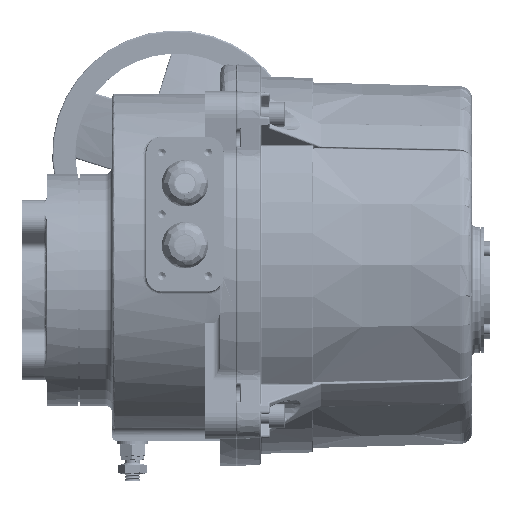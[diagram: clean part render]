
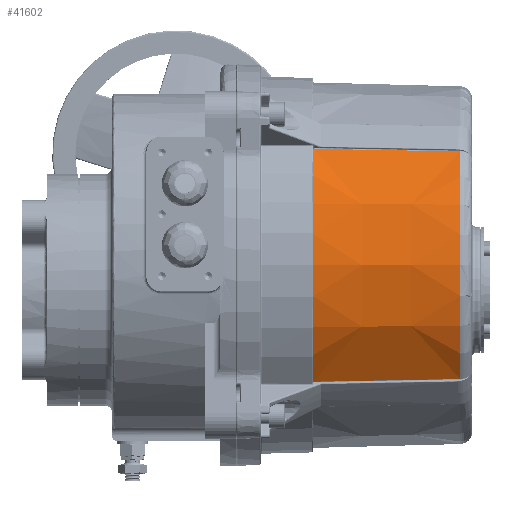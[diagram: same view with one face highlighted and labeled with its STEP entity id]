
A CAD part, left-side view. The second image highlights one B-rep face of the part: STEP entity #41602.
In plain terms, the highlighted conical face has half-angle 1.5 degrees and reference radius 115.6 mm.
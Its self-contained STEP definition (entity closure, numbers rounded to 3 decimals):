
#3648 = CARTESIAN_POINT ( 'NONE',  ( -90.974, -92.761, -75.197 ) ) ;
#5270 = CARTESIAN_POINT ( 'NONE',  ( -91.154, -102.415, 75.377 ) ) ;
#5914 = ORIENTED_EDGE ( 'NONE', *, *, #90754, .T. ) ;
#7390 = CARTESIAN_POINT ( 'NONE',  ( -91.067, -97.75, 75.29 ) ) ;
#10781 = CARTESIAN_POINT ( 'NONE',  ( -91.16, -102.748, -75.383 ) ) ;
#12110 = DIRECTION ( 'NONE',  ( 0., -1., 0. ) ) ;
#13548 = EDGE_CURVE ( 'NONE', #151352, #199338, #109644, .T. ) ;
#17894 = AXIS2_PLACEMENT_3D ( 'NONE', #178828, #97377, #161730 ) ;
#20110 = CARTESIAN_POINT ( 'NONE',  ( -90.577, -71.435, -74.801 ) ) ;
#21516 = CARTESIAN_POINT ( 'NONE',  ( -89.399, -8.124, -73.623 ) ) ;
#21846 = DIRECTION ( 'NONE',  ( 0., -1., 0. ) ) ;
#22209 = CARTESIAN_POINT ( 'NONE',  ( -89.585, -18.12, -73.809 ) ) ;
#23711 = FACE_OUTER_BOUND ( 'NONE', #50509, .T. ) ;
#23809 = CARTESIAN_POINT ( 'NONE',  ( -90.868, -87.087, 75.092 ) ) ;
#28534 = DIRECTION ( 'NONE',  ( 0., 0., 1. ) ) ;
#30906 = B_SPLINE_CURVE_WITH_KNOTS ( 'NONE', 3,
 ( #87131, #21516, #52177, #119967, #135740, #152188, #35805, #22209, #101446, #54945, #198644, #20110, #3648, #167179, #36511, #69270 ),
 .UNSPECIFIED., .F., .F.,
 ( 4, 3, 3, 3, 3, 4 ),
 ( 0., 0.001, 0.005, 0.021, 0.085, 0.095 ),
 .UNSPECIFIED. ) ;
#35805 = CARTESIAN_POINT ( 'NONE',  ( -89.486, -12.789, -73.71 ) ) ;
#36511 = CARTESIAN_POINT ( 'NONE',  ( -91.098, -99.419, -75.321 ) ) ;
#38657 = CARTESIAN_POINT ( 'NONE',  ( -91.586, -103., -74.875 ) ) ;
#38815 = CARTESIAN_POINT ( 'NONE',  ( -91.141, -101.749, 75.364 ) ) ;
#40218 = CARTESIAN_POINT ( 'NONE',  ( -89.975, -39.104, 74.2 ) ) ;
#40935 = VERTEX_POINT ( 'NONE', #106488 ) ;
#41602 = ADVANCED_FACE ( 'NONE', ( #23711 ), #49280, .T. ) ;
#47880 = EDGE_CURVE ( 'NONE', #88664, #208327, #116522, .T. ) ;
#49280 = CONICAL_SURFACE ( 'NONE', #169742, 115.6, 0.026 ) ;
#50509 = EDGE_LOOP ( 'NONE', ( #55286, #191505, #72062, #5914, #127297, #109183 ) ) ;
#52177 = CARTESIAN_POINT ( 'NONE',  ( -89.405, -8.457, -73.63 ) ) ;
#53440 = CARTESIAN_POINT ( 'NONE',  ( -91.287, -102.892, 75.235 ) ) ;
#54945 = CARTESIAN_POINT ( 'NONE',  ( -89.783, -28.783, -74.008 ) ) ;
#55286 = ORIENTED_EDGE ( 'NONE', *, *, #131117, .T. ) ;
#59646 = AXIS2_PLACEMENT_3D ( 'NONE', #103887, #21846, #153237 ) ;
#69270 = CARTESIAN_POINT ( 'NONE',  ( -91.16, -102.748, -75.383 ) ) ;
#70388 = EDGE_CURVE ( 'NONE', #40935, #88664, #150628, .T. ) ;
#70894 = CARTESIAN_POINT ( 'NONE',  ( -91.16, -102.748, 75.383 ) ) ;
#72062 = ORIENTED_EDGE ( 'NONE', *, *, #47880, .T. ) ;
#72313 = CARTESIAN_POINT ( 'NONE',  ( -91.116, -100.416, 75.339 ) ) ;
#73016 = CARTESIAN_POINT ( 'NONE',  ( -89.393, -7.791, 73.617 ) ) ;
#87004 = CARTESIAN_POINT ( 'NONE',  ( -91.433, -102.978, 75.061 ) ) ;
#87131 = CARTESIAN_POINT ( 'NONE',  ( -89.393, -7.791, -73.617 ) ) ;
#88397 = CARTESIAN_POINT ( 'NONE',  ( -91.16, -102.748, 75.383 ) ) ;
#88664 = VERTEX_POINT ( 'NONE', #144680 ) ;
#90754 = EDGE_CURVE ( 'NONE', #208327, #151352, #30906, .T. ) ;
#97377 = DIRECTION ( 'NONE',  ( 0., 1., 0. ) ) ;
#101446 = CARTESIAN_POINT ( 'NONE',  ( -89.684, -23.452, -73.908 ) ) ;
#102180 = CARTESIAN_POINT ( 'NONE',  ( -91.432, -103., -75.063 ) ) ;
#103887 = CARTESIAN_POINT ( 'NONE',  ( 0., -7.791, 0. ) ) ;
#106488 = CARTESIAN_POINT ( 'NONE',  ( -91.16, -102.748, 75.383 ) ) ;
#109183 = ORIENTED_EDGE ( 'NONE', *, *, #112443, .T. ) ;
#109644 = B_SPLINE_CURVE_WITH_KNOTS ( 'NONE', 3,
 ( #152932, #136487, #102180, #38657 ),
 .UNSPECIFIED., .F., .F.,
 ( 4, 4 ),
 ( 0.001, 0.002 ),
 .UNSPECIFIED. ) ;
#112443 = EDGE_CURVE ( 'NONE', #199338, #169709, #175965, .T. ) ;
#116522 = CIRCLE ( 'NONE', #59646, 115.804 ) ;
#118434 = CARTESIAN_POINT ( 'NONE',  ( -91.509, -103., 74.969 ) ) ;
#119482 = CARTESIAN_POINT ( 'NONE',  ( -90.769, -81.756, 74.993 ) ) ;
#119967 = CARTESIAN_POINT ( 'NONE',  ( -89.411, -8.79, -73.636 ) ) ;
#120185 = CARTESIAN_POINT ( 'NONE',  ( -91.147, -102.082, 75.37 ) ) ;
#121955 = CARTESIAN_POINT ( 'NONE',  ( -91.219, -102.829, 75.314 ) ) ;
#122288 = CARTESIAN_POINT ( 'NONE',  ( -91.586, -103., -74.875 ) ) ;
#127297 = ORIENTED_EDGE ( 'NONE', *, *, #13548, .T. ) ;
#131117 = EDGE_CURVE ( 'NONE', #169709, #40935, #202209, .T. ) ;
#135740 = CARTESIAN_POINT ( 'NONE',  ( -89.436, -10.123, -73.661 ) ) ;
#135961 = CARTESIAN_POINT ( 'NONE',  ( -90.968, -92.419, 75.191 ) ) ;
#136487 = CARTESIAN_POINT ( 'NONE',  ( -91.278, -102.908, -75.247 ) ) ;
#144680 = CARTESIAN_POINT ( 'NONE',  ( -89.393, -7.791, 73.617 ) ) ;
#150628 = B_SPLINE_CURVE_WITH_KNOTS ( 'NONE', 3,
 ( #70894, #5270, #120185, #38815, #72313, #186625, #7390, #135961, #23809, #119482, #168088, #40218, #154516, #184515, #170876, #73016 ),
 .UNSPECIFIED., .F., .F.,
 ( 4, 3, 3, 3, 3, 4 ),
 ( 0., 0.001, 0.005, 0.021, 0.085, 0.095 ),
 .UNSPECIFIED. ) ;
#150678 = CARTESIAN_POINT ( 'NONE',  ( -91.586, -103., 74.875 ) ) ;
#151352 = VERTEX_POINT ( 'NONE', #10781 ) ;
#152188 = CARTESIAN_POINT ( 'NONE',  ( -89.461, -11.456, -73.685 ) ) ;
#152932 = CARTESIAN_POINT ( 'NONE',  ( -91.16, -102.748, -75.383 ) ) ;
#153015 = CARTESIAN_POINT ( 'NONE',  ( -89.393, -7.791, -73.617 ) ) ;
#153237 = DIRECTION ( 'NONE',  ( 0., 0., 1. ) ) ;
#154516 = CARTESIAN_POINT ( 'NONE',  ( -89.579, -17.778, 73.803 ) ) ;
#159476 = CARTESIAN_POINT ( 'NONE',  ( -91.586, -103., 74.875 ) ) ;
#161730 = DIRECTION ( 'NONE',  ( 0., 0., -1. ) ) ;
#167179 = CARTESIAN_POINT ( 'NONE',  ( -91.036, -96.09, -75.259 ) ) ;
#168088 = CARTESIAN_POINT ( 'NONE',  ( -90.372, -60.43, 74.596 ) ) ;
#169709 = VERTEX_POINT ( 'NONE', #159476 ) ;
#169742 = AXIS2_PLACEMENT_3D ( 'NONE', #207066, #12110, #28534 ) ;
#170876 = CARTESIAN_POINT ( 'NONE',  ( -89.455, -11.12, 73.679 ) ) ;
#175965 = CIRCLE ( 'NONE', #17894, 118.297 ) ;
#178828 = CARTESIAN_POINT ( 'NONE',  ( 0., -103., 0. ) ) ;
#184515 = CARTESIAN_POINT ( 'NONE',  ( -89.517, -14.449, 73.741 ) ) ;
#186625 = CARTESIAN_POINT ( 'NONE',  ( -91.092, -99.083, 75.315 ) ) ;
#191505 = ORIENTED_EDGE ( 'NONE', *, *, #70388, .T. ) ;
#198644 = CARTESIAN_POINT ( 'NONE',  ( -90.18, -50.109, -74.404 ) ) ;
#199338 = VERTEX_POINT ( 'NONE', #122288 ) ;
#202209 = B_SPLINE_CURVE_WITH_KNOTS ( 'NONE', 3,
 ( #150678, #118434, #87004, #53440, #121955, #88397 ),
 .UNSPECIFIED., .F., .F.,
 ( 4, 2, 4 ),
 ( 0., 0., 0.001 ),
 .UNSPECIFIED. ) ;
#207066 = CARTESIAN_POINT ( 'NONE',  ( 0., 0., 0. ) ) ;
#208327 = VERTEX_POINT ( 'NONE', #153015 ) ;
